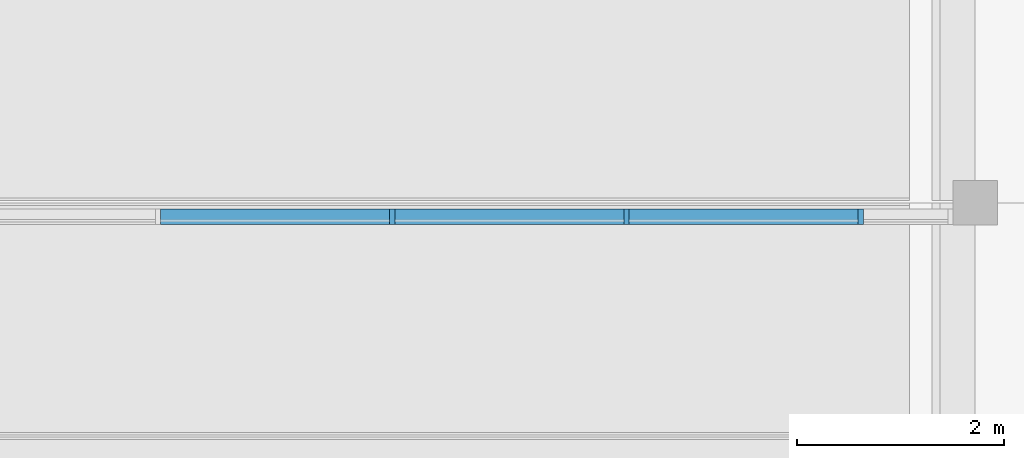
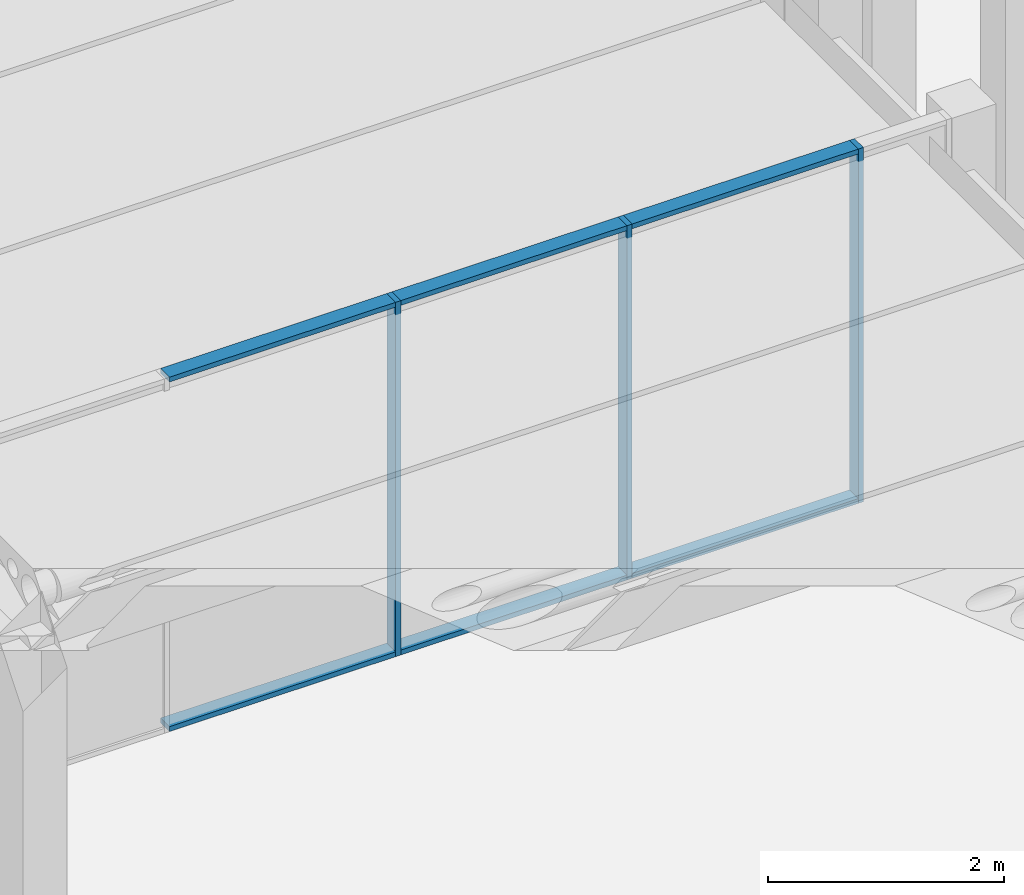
# One storey, part 7 of 25: 9 members, 1 element without a shape of its own.
"""IFC2X3 building model written with IfcOpenShell, lengths in millimetres."""

from ifc_helpers import new_model, entity, si_unit, converted_unit, derived_unit, direction, frame, origin, origin_2d_with_axis, place, context, subcontext, project, spatial, rectangle, extrude, source, transform, mapped, material, type_object, type_shapes, element, aggregate, save


model = new_model("IFC2X3")

# Units and contexts
model_context = context("Model", 3, precision=0.01, world=origin(), true_north=direction((6.12303176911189e-17, 1.0)))
body_context = subcontext(model_context, "Body", "Model", "MODEL_VIEW")
ifc_project = project(units=[si_unit("LENGTHUNIT", "METRE", prefix="MILLI"), si_unit("AREAUNIT", "SQUARE_METRE"), si_unit("VOLUMEUNIT", "CUBIC_METRE"), converted_unit("PLANEANGLEUNIT", "DEGREE", entity("IfcRatioMeasure", 0.0174532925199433), si_unit("PLANEANGLEUNIT", "RADIAN"), dimensions=[0, 0, 0, 0, 0, 0, 0]), si_unit("MASSUNIT", "GRAM", prefix="KILO"), derived_unit("MASSDENSITYUNIT", [(si_unit("MASSUNIT", "GRAM", prefix="KILO"), 1), (si_unit("LENGTHUNIT", "METRE"), -3)]), derived_unit("MOMENTOFINERTIAUNIT", [(si_unit("LENGTHUNIT", "METRE"), 4)]), si_unit("TIMEUNIT", "SECOND"), si_unit("FREQUENCYUNIT", "HERTZ"), si_unit("THERMODYNAMICTEMPERATUREUNIT", "DEGREE_CELSIUS"), derived_unit("THERMALTRANSMITTANCEUNIT", [(si_unit("MASSUNIT", "GRAM", prefix="KILO"), 1), (si_unit("THERMODYNAMICTEMPERATUREUNIT", "KELVIN"), -1), (si_unit("TIMEUNIT", "SECOND"), -3)]), derived_unit("VOLUMETRICFLOWRATEUNIT", [(si_unit("LENGTHUNIT", "METRE"), 3), (si_unit("TIMEUNIT", "SECOND"), -1)]), si_unit("ELECTRICCURRENTUNIT", "AMPERE"), si_unit("ELECTRICVOLTAGEUNIT", "VOLT"), si_unit("POWERUNIT", "WATT"), si_unit("FORCEUNIT", "NEWTON", prefix="KILO"), si_unit("ILLUMINANCEUNIT", "LUX"), si_unit("LUMINOUSFLUXUNIT", "LUMEN"), si_unit("LUMINOUSINTENSITYUNIT", "CANDELA"), derived_unit("USERDEFINED", [(si_unit("MASSUNIT", "GRAM", prefix="KILO"), -1), (si_unit("LENGTHUNIT", "METRE"), -2), (si_unit("TIMEUNIT", "SECOND"), 3), (si_unit("LUMINOUSFLUXUNIT", "LUMEN"), 1)]), derived_unit("LINEARVELOCITYUNIT", [(si_unit("LENGTHUNIT", "METRE"), 1), (si_unit("TIMEUNIT", "SECOND"), -1)]), si_unit("PRESSUREUNIT", "PASCAL"), derived_unit("USERDEFINED", [(si_unit("LENGTHUNIT", "METRE"), -2), (si_unit("MASSUNIT", "GRAM", prefix="KILO"), 1), (si_unit("TIMEUNIT", "SECOND"), -2)]), derived_unit("LINEARFORCEUNIT", [(si_unit("MASSUNIT", "GRAM", prefix="KILO"), 1), (si_unit("LENGTHUNIT", "METRE"), 1), (si_unit("TIMEUNIT", "SECOND"), -2), (si_unit("LENGTHUNIT", "METRE"), -1)]), derived_unit("PLANARFORCEUNIT", [(si_unit("MASSUNIT", "GRAM", prefix="KILO"), 1), (si_unit("LENGTHUNIT", "METRE"), 1), (si_unit("TIMEUNIT", "SECOND"), -2), (si_unit("LENGTHUNIT", "METRE"), -2)])], contexts=[model_context])

# Site, building, storey
site_placement = place(None, frame((10627.5135316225, 21939.0796949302, 0.0)))
site = spatial("IfcSite", under=ifc_project, at=site_placement, Name="Default", CompositionType="ELEMENT")
building_placement = place(site_placement, origin())
building = spatial("IfcBuilding", under=site, at=building_placement, CompositionType="ELEMENT")
storey_placement = place(building_placement, origin())
storey = spatial("IfcBuildingStorey", under=building, at=storey_placement, Name="RDC", CompositionType="ELEMENT", Elevation=0.0)

# Curtain wall, members
curtain_wall_type = type_object("IfcCurtainWallType", Name="Curtain Wall:Curtain_Wall-Empty 2", PredefinedType="NOTDEFINED")
curtain_wall_placement = place(storey_placement, origin())
curtain_wall = element("IfcCurtainWall", 1, at=curtain_wall_placement, inside=storey, type_object=curtain_wall_type, Name="Curtain Wall:Curtain_Wall-Empty 2", ObjectType="Curtain Wall:Curtain_Wall-Empty 2")
ifc_material = material(Name="Aluminium")
member_type_1 = type_object("IfcMemberType", Name="Rectangular Mullion:50x150mm", PredefinedType="MULLION", material=ifc_material)
shared_shape_1 = source(origin(), body_context, "Body", "SweptSolid", [
    extrude(rectangle(XDim=150.0, YDim=50.0, at=origin_2d_with_axis()), frame((-25.0, 0.0, -2210.0), z_axis=(0.0, 0.0, 1.0), x_axis=(0.0, -1.0, 0.0)), (0.0, 0.0, 1.0), 2210.0000003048),
])
type_shapes(member_type_1, [shared_shape_1])
member_1_placement = place(storey_placement, frame((16695.4864686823, -10774.0796949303, 3660.0), z_axis=(1.0, 0.0, 0.0), x_axis=(0.0, 0.0, 1.0)))
member_1 = element("IfcMember", 2, at=member_1_placement, type_object=member_type_1, material=ifc_material, Name="Rectangular Mullion:50x150mm", ObjectType="Rectangular Mullion:50x150mm", context=body_context, shape_type="MappedRepresentation", body=[
    mapped(shared_shape_1, transform((0.0, 0.0, 0.0), scale=1.0)),
])
member_2_placement = place(storey_placement, frame((18955.4864686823, -10774.0796949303, 3660.0), z_axis=(1.0, 0.0, 0.0), x_axis=(0.0, 0.0, 1.0)))
member_2 = element("IfcMember", 3, at=member_2_placement, type_object=member_type_1, material=ifc_material, Name="Rectangular Mullion:50x150mm", ObjectType="Rectangular Mullion:50x150mm", context=body_context, shape_type="MappedRepresentation", body=[
    mapped(shared_shape_1, transform((0.0, 0.0, 0.0), scale=1.0)),
])
member_3_placement = place(storey_placement, frame((21215.4864686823, -10774.0796949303, 3660.0), z_axis=(1.0, 0.0, 0.0), x_axis=(0.0, 0.0, 1.0)))
member_3 = element("IfcMember", 4, at=member_3_placement, type_object=member_type_1, material=ifc_material, Name="Rectangular Mullion:50x150mm", ObjectType="Rectangular Mullion:50x150mm", context=body_context, shape_type="MappedRepresentation", body=[
    mapped(shared_shape_1, transform((0.0, 0.0, 0.0), scale=1.0)),
])
member_type_2 = type_object("IfcMemberType", Name="Rectangular Mullion:50x150mm", PredefinedType="MULLION", material=ifc_material)
shared_shape_2 = source(origin(), body_context, "Body", "SweptSolid", [
    extrude(rectangle(XDim=150.0, YDim=50.0, at=origin_2d_with_axis()), frame((-25.0, 0.0, -2210.0), z_axis=(0.0, 0.0, 1.0), x_axis=(0.0, -1.0, 0.0)), (0.0, 0.0, 1.0), 2210.0000003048),
])
type_shapes(member_type_2, [shared_shape_2])
member_4_placement = place(storey_placement, frame((14485.4864686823, -10774.0796949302, 0.0), z_axis=(-1.0, 0.0, 0.0), x_axis=(0.0, 0.0, -1.0)))
member_4 = element("IfcMember", 5, at=member_4_placement, type_object=member_type_2, material=ifc_material, Name="Rectangular Mullion:50x150mm", ObjectType="Rectangular Mullion:50x150mm", context=body_context, shape_type="MappedRepresentation", body=[
    mapped(shared_shape_2, transform((0.0, 0.0, 0.0), scale=1.0)),
])
member_5_placement = place(storey_placement, frame((16745.4864686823, -10774.0796949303, 0.0), z_axis=(-1.0, 0.0, 0.0), x_axis=(0.0, 0.0, -1.0)))
member_5 = element("IfcMember", 6, at=member_5_placement, type_object=member_type_2, material=ifc_material, Name="Rectangular Mullion:50x150mm", ObjectType="Rectangular Mullion:50x150mm", context=body_context, shape_type="MappedRepresentation", body=[
    mapped(shared_shape_2, transform((0.0, 0.0, 0.0), scale=1.0)),
])
member_6_placement = place(storey_placement, frame((19005.4864686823, -10774.0796949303, 0.0), z_axis=(-1.0, 0.0, 0.0), x_axis=(0.0, 0.0, -1.0)))
member_6 = element("IfcMember", 7, at=member_6_placement, type_object=member_type_2, material=ifc_material, Name="Rectangular Mullion:50x150mm", ObjectType="Rectangular Mullion:50x150mm", context=body_context, shape_type="MappedRepresentation", body=[
    mapped(shared_shape_2, transform((0.0, 0.0, 0.0), scale=1.0)),
])
member_type_3 = type_object("IfcMemberType", Name="Rectangular Mullion:50x150mm", PredefinedType="MULLION", material=ifc_material)
shared_shape_3 = source(origin(), body_context, "Body", "SweptSolid", [
    extrude(rectangle(XDim=150.0, YDim=50.0, at=origin_2d_with_axis()), frame((0.0, 0.0, -3660.0), z_axis=(0.0, 0.0, 1.0), x_axis=(0.0, -1.0, 0.0)), (0.0, 0.0, 1.0), 3660.0),
])
type_shapes(member_type_3, [shared_shape_3])
member_7_placement = place(storey_placement, frame((16720.4864686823, -10774.0796949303, 0.0), z_axis=(0.0, 0.0, -1.0), x_axis=(1.0, 0.0, 0.0)))
member_7 = element("IfcMember", 8, at=member_7_placement, type_object=member_type_3, material=ifc_material, Name="Rectangular Mullion:50x150mm", ObjectType="Rectangular Mullion:50x150mm", context=body_context, shape_type="MappedRepresentation", body=[
    mapped(shared_shape_3, transform((0.0, 0.0, 0.0), scale=1.0)),
])
member_8_placement = place(storey_placement, frame((18980.4864686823, -10774.0796949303, 0.0), z_axis=(0.0, 0.0, -1.0), x_axis=(1.0, 0.0, 0.0)))
member_8 = element("IfcMember", 9, at=member_8_placement, type_object=member_type_3, material=ifc_material, Name="Rectangular Mullion:50x150mm", ObjectType="Rectangular Mullion:50x150mm", context=body_context, shape_type="MappedRepresentation", body=[
    mapped(shared_shape_3, transform((0.0, 0.0, 0.0), scale=1.0)),
])
member_9_placement = place(storey_placement, frame((21240.4864686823, -10774.0796949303, 0.0), z_axis=(0.0, 0.0, -1.0), x_axis=(1.0, 0.0, 0.0)))
member_9 = element("IfcMember", 10, at=member_9_placement, type_object=member_type_3, material=ifc_material, Name="Rectangular Mullion:50x150mm", ObjectType="Rectangular Mullion:50x150mm", context=body_context, shape_type="MappedRepresentation", body=[
    mapped(shared_shape_3, transform((0.0, 0.0, 0.0), scale=1.0)),
])
aggregate(curtain_wall, [member_1, member_2, member_3, member_4, member_5, member_6, member_7, member_8, member_9])

save(model, "model.ifc")
